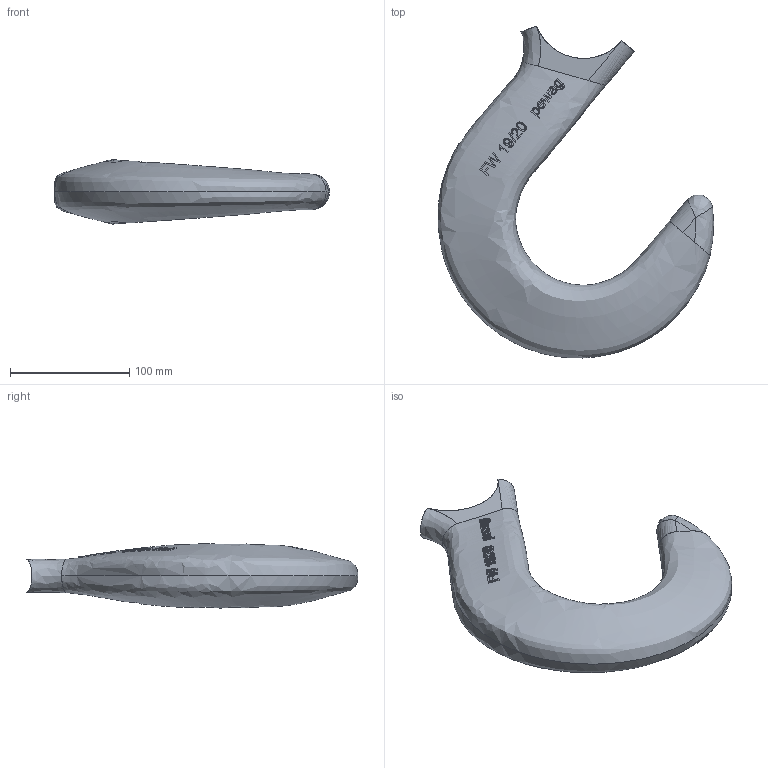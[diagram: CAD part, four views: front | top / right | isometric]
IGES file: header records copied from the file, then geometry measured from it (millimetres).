
Global section: file name: L:\users\SC\3D Kundenmodelle\UG Zg der Ableitung G100\FW Kundenmodell\FW 19_20 Kundenmodell\pewag_FW_19-20.igs; native system: NX V4.0; preprocessor: UGS NX IGES V4.0; date: 20100125.135215; units: millimetre
Bounding box: 230.83 x 278.25 x 53.81 mm (x, y, z)
Surface area: 84120.1 mm2 (no closed solid volume)
Topology: 0 solids, 0 shells, 200 faces, 1218 edges, 1215 vertices
Faces by surface type: bspline 188, offset 12
